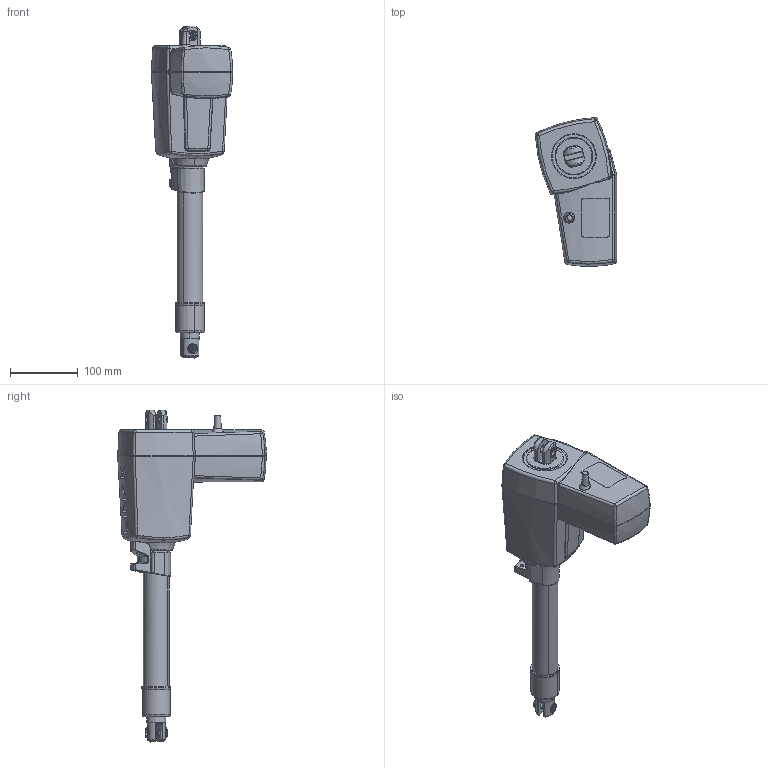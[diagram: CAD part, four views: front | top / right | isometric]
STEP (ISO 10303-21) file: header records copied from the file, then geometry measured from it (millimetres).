
FILE_DESCRIPTION((''),'2;1');
FILE_NAME('34310F_0XXXX04X','2006-02-02T',('abl'),(''),'PRO/ENGINEER BY PARAMETRIC TECHNOLOGY CORPORATION, 2005110','PRO/ENGINEER BY PARAMETRIC TECHNOLOGY CORPORATION, 2005110','');
FILE_SCHEMA(('CONFIG_CONTROL_DESIGN'));
Length unit declared in the file: millimetre
Products named in the file (1): 34310F_0XXXX04X
Bounding box: 119.66 x 218.7 x 488.49 mm (x, y, z)
Volume: 2426719.8 mm3; surface area: 229901.8 mm2
Topology: 3 solids, 3 shells, 993 faces, 2756 edges, 1744 vertices
Faces by surface type: plane 462, cylinder 208, bspline 142, cone 83, torus 52, sphere 41, extrusion 5
Entity records: 41371 total; most frequent: CARTESIAN_POINT 17948, ORIENTED_EDGE 5454, DIRECTION 4062, EDGE_CURVE 2727, VERTEX_POINT 1744, AXIS2_PLACEMENT_3D 1384, VECTOR 1294, LINE 1289
